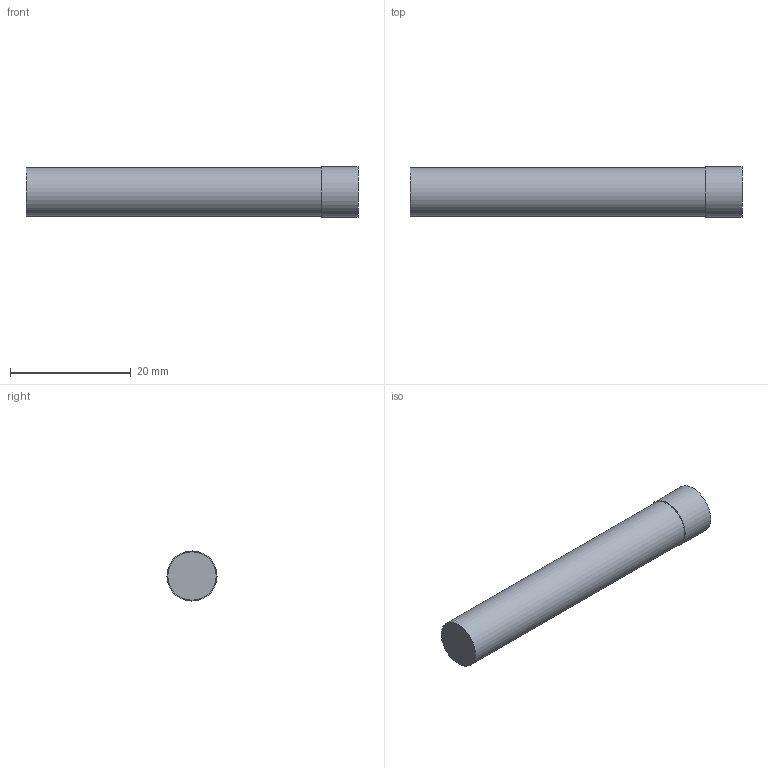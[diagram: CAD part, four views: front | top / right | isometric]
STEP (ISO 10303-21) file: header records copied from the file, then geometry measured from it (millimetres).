
FILE_DESCRIPTION (( 'STEP AP214' ), '1' );
FILE_NAME ('N30124.step', '2024-12-03T16:27:03', ( '' ), ( '' ), 'SwSTEP 2.0', 'SolidWorks 2023', '' );
FILE_SCHEMA (( 'AUTOMOTIVE_DESIGN' ));
Length unit declared in the file: millimetre
Products named in the file (1): N30124
Bounding box: 55 x 8.3 x 8.3 mm (x, y, z)
Volume: 2787.6 mm3; surface area: 1496.2 mm2
Topology: 1 solids, 1 shells, 5 faces, 6 edges, 4 vertices
Faces by surface type: plane 3, cylinder 2
Full cylindrical faces by diameter (mm): 8 x1, 8.3 x1
Entity records: 117 total; most frequent: DIRECTION 20, CARTESIAN_POINT 14, AXIS2_PLACEMENT_3D 10, ORIENTED_EDGE 8, EDGE_LOOP 8, FACE_OUTER_BOUND 7, ADVANCED_FACE 5, EDGE_CURVE 4
